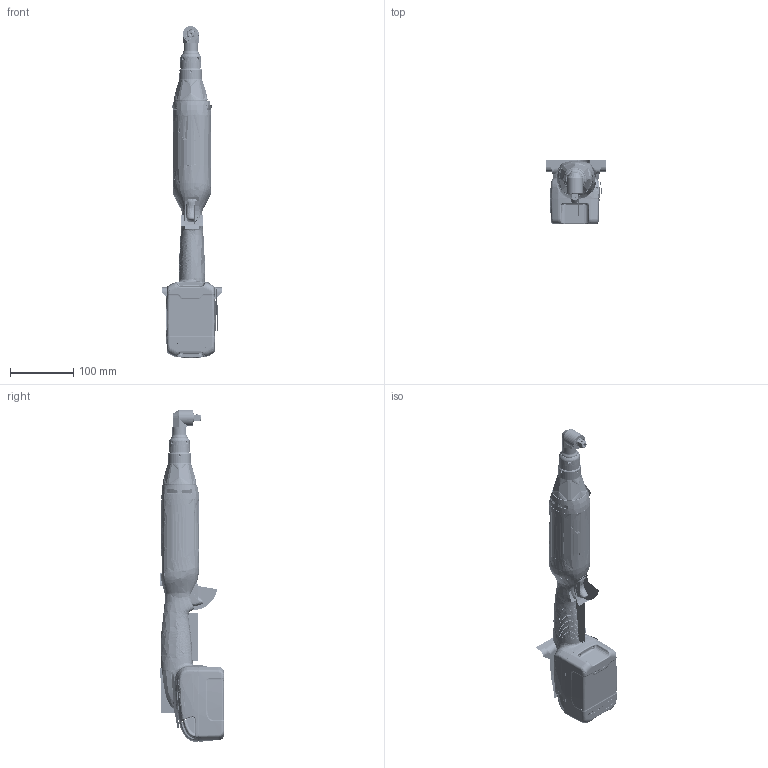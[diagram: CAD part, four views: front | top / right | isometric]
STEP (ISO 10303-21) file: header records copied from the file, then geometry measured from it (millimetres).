
FILE_DESCRIPTION((''),'2;1');
FILE_NAME('47519395001_ASM','2014-06-02T',('rryoung'),(''),'PRO/ENGINEER BY PARAMETRIC TECHNOLOGY CORPORATION, 2012450','PRO/ENGINEER BY PARAMETRIC TECHNOLOGY CORPORATION, 2012450','');
FILE_SCHEMA(('CONFIG_CONTROL_DESIGN'));
Products named in the file (47): 47151352_NX; 53420253_NX; 04376331_NX_ASM; 53445425_NX; 53424370_NX; 04377396M3_NX; 04377396M2_NX; 04377396M1_NX; 04377396_NX_ASM; 53443537_NX; 47151451_NX; 53431045M3_NX; 53431045M2_NX; 53431045M1_NX; 53431045_NX_ASM; 53443602_NX; 53453494_NX; 04364915_NX; 47151170_NX; 47151733_NX; 47151378_NX; 47152582M1; 47152582M2; 47152582M3; 47152582M4; 47152582M1_ASM; 04384038_NX; 47152582_ASM; 24224537; 24208795; 24208803; 47507311001_ASM; 47111786; 24272783; 24279325; 47086400; 24435927; 24272783_ASM; 24361370; 24586463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
Assembly tree (55 placements, depth 4):
  47519395001_ASM
    47152582_ASM
      47151352_NX
      53420253_NX
      04376331_NX_ASM
      53445425_NX
      53424370_NX
      04377396_NX_ASM
        04377396M3_NX
        04377396M2_NX
        04377396M1_NX  x10
      53443537_NX
      47151451_NX
      53431045_NX_ASM
        53431045M3_NX
        53431045M2_NX
        53431045M1_NX
      53443602_NX
      53453494_NX
      04364915_NX
      47151170_NX
      47151733_NX
      47151378_NX
      47152582M1_ASM
        47152582M1
        47152582M2
        47152582M3
        47152582M4
      04384038_NX
    24224537
    47507311001_ASM
      24208795
      24208803
    47111786
    24272783_ASM
      24272783
      24279325
      47086400
      24435927
    24361370
    24260093_ASM
      24586463
      45500642
    47118054_NX
    47118211_NX
    47118229_NX
    47118237_NX
Bounding box: 96 x 101 x 523 mm (x, y, z)
Volume: 403569.5 mm3; surface area: 966679 mm2
Topology: 47 solids, 338 shells, 14343 faces, 37817 edges, 23759 vertices
Faces by surface type: plane 4721, bspline 4367, cylinder 3115, torus 927, cone 687, sphere 304, extrusion 207, revolution 15
Entity records: 757767 total; most frequent: CARTESIAN_POINT 447627, ORIENTED_EDGE 72772, DIRECTION 49758, EDGE_CURVE 37424, VERTEX_POINT 23747, AXIS2_PLACEMENT_3D 17925, B_SPLINE_CURVE_WITH_KNOTS 15931, EDGE_LOOP 14858
